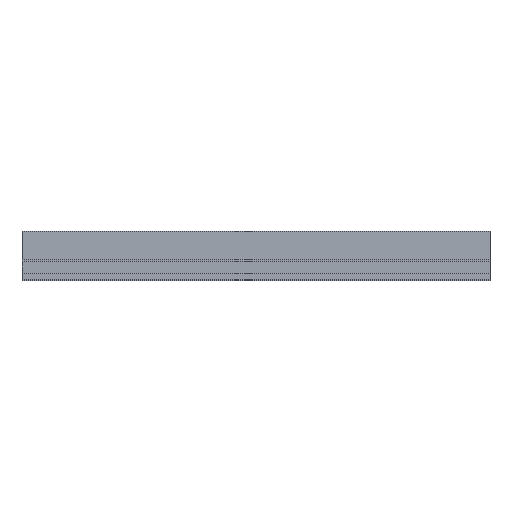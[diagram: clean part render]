
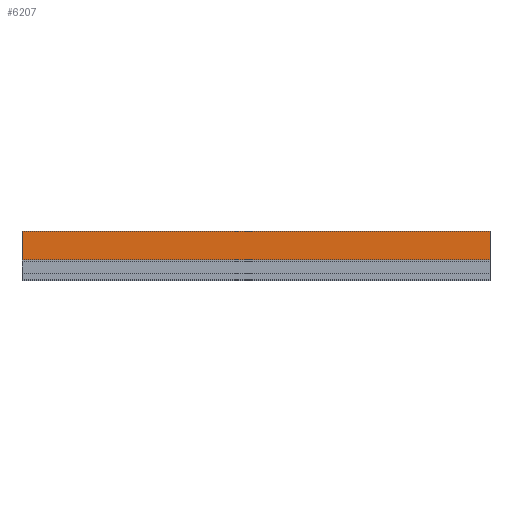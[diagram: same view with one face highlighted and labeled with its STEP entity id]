
A CAD part, left-side view. The second image highlights one B-rep face of the part: STEP entity #6207.
In plain terms, the highlighted planar face has unit normal (-1, 0, 0).
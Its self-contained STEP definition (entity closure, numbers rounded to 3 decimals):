
#505=DIRECTION('',(0.,0.,1.));
#506=VECTOR('',#505,30.5);
#507=CARTESIAN_POINT('',(-30.,0.,-4.));
#508=LINE('',#507,#506);
#1482=DIRECTION('',(0.,1.,0.));
#1483=VECTOR('',#1482,500.);
#1484=CARTESIAN_POINT('',(-30.,0.,26.5));
#1485=LINE('',#1484,#1483);
#1486=DIRECTION('',(0.,1.,0.));
#1487=VECTOR('',#1486,500.);
#1488=CARTESIAN_POINT('',(-30.,0.,-4.));
#1489=LINE('',#1488,#1487);
#2326=DIRECTION('',(0.,0.,1.));
#2327=VECTOR('',#2326,30.5);
#2328=CARTESIAN_POINT('',(-30.,500.,-4.));
#2329=LINE('',#2328,#2327);
#3579=CARTESIAN_POINT('',(-30.,0.,-4.));
#3580=VERTEX_POINT('',#3579);
#3581=CARTESIAN_POINT('',(-30.,0.,26.5));
#3582=VERTEX_POINT('',#3581);
#4115=CARTESIAN_POINT('',(-30.,500.,-4.));
#4116=VERTEX_POINT('',#4115);
#4117=CARTESIAN_POINT('',(-30.,500.,26.5));
#4118=VERTEX_POINT('',#4117);
#6194=CARTESIAN_POINT('',(-30.,0.,-4.));
#6195=DIRECTION('',(-1.,0.,0.));
#6196=DIRECTION('',(0.,0.,1.));
#6197=AXIS2_PLACEMENT_3D('',#6194,#6195,#6196);
#6198=PLANE('',#6197);
#6199=ORIENTED_EDGE('',*,*,#4656,.F.);
#6201=ORIENTED_EDGE('',*,*,#6200,.T.);
#6203=ORIENTED_EDGE('',*,*,#6202,.T.);
#6204=ORIENTED_EDGE('',*,*,#6186,.F.);
#6205=EDGE_LOOP('',(#6199,#6201,#6203,#6204));
#6206=FACE_OUTER_BOUND('',#6205,.F.);
#6207=ADVANCED_FACE('',(#6206),#6198,.T.);
#4656=EDGE_CURVE('',#3580,#3582,#508,.T.);
#6186=EDGE_CURVE('',#3582,#4118,#1485,.T.);
#6200=EDGE_CURVE('',#3580,#4116,#1489,.T.);
#6202=EDGE_CURVE('',#4116,#4118,#2329,.T.);
